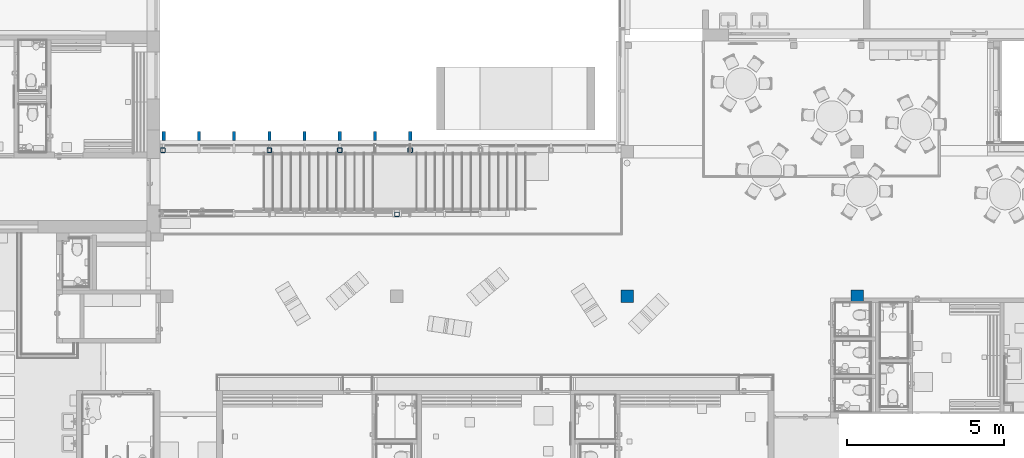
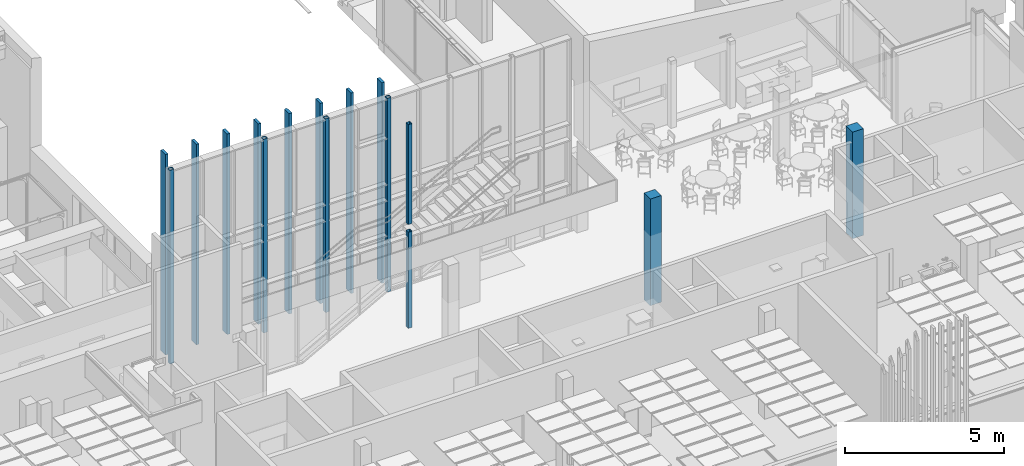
# One storey, part 15 of 301: 15 columns.
"""IFC2X3 building model written with IfcOpenShell, lengths in millimetres."""

from ifc_helpers import new_model, entity, si_unit, converted_unit, derived_unit, money_unit, direction, frame, origin_with_axes, place, context, subcontext, project, spatial, faceted_brep, material, type_object, element, save


model = new_model("IFC2X3")

# Units and contexts
model_context = context("Model", 3, precision=0.01, world=origin_with_axes(), true_north=direction((0.0, 1.0)))
body_context = subcontext(model_context, "Body", "Model", "MODEL_VIEW")
ifc_project = project(units=[si_unit("LENGTHUNIT", "METRE", prefix="MILLI"), si_unit("AREAUNIT", "SQUARE_METRE"), si_unit("VOLUMEUNIT", "CUBIC_METRE"), converted_unit("PLANEANGLEUNIT", "DEGREE", entity("IfcPlaneAngleMeasure", 0.0174532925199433), si_unit("PLANEANGLEUNIT", "RADIAN"), dimensions=[0, 0, 0, 0, 0, 0, 0]), money_unit("EUR"), converted_unit("TIMEUNIT", "Year", entity("IfcTimeMeasure", 31557600.0), si_unit("TIMEUNIT", "SECOND"), dimensions=[0, 0, 1, 0, 0, 0, 0]), si_unit("MASSUNIT", "GRAM", prefix="KILO"), si_unit("THERMODYNAMICTEMPERATUREUNIT", "DEGREE_CELSIUS"), si_unit("LUMINOUSINTENSITYUNIT", "LUMEN"), si_unit("ENERGYUNIT", "JOULE", prefix="MEGA"), derived_unit("THERMALCONDUCTANCEUNIT", [(si_unit("POWERUNIT", "WATT"), 1), (si_unit("LENGTHUNIT", "METRE"), -1), (si_unit("THERMODYNAMICTEMPERATUREUNIT", "KELVIN"), -1)]), derived_unit("SPECIFICHEATCAPACITYUNIT", [(si_unit("ENERGYUNIT", "JOULE"), 1), (si_unit("MASSUNIT", "GRAM", prefix="KILO"), -1), (si_unit("THERMODYNAMICTEMPERATUREUNIT", "KELVIN"), -1)]), derived_unit("MASSDENSITYUNIT", [(si_unit("MASSUNIT", "GRAM", prefix="KILO"), 1), (si_unit("VOLUMEUNIT", "CUBIC_METRE"), -1)])], contexts=[model_context])

# Site, building, storey
site_placement = place(None, frame((0.0, 0.0, 8650.0), z_axis=(0.0, 0.0, 1.0), x_axis=(1.0, 0.0, 0.0)))
site = spatial("IfcSite", under=ifc_project, at=site_placement, Name="43301:001:0844", CompositionType="ELEMENT")
building_placement = place(site_placement, origin_with_axes())
building = spatial("IfcBuilding", under=site, at=building_placement, Name="Kuressaare Ametikooli tuulikute mehaanikute õppekorpus", CompositionType="ELEMENT")
storey_placement = place(building_placement, origin_with_axes())
storey = spatial("IfcBuildingStorey", under=building, at=storey_placement, Name="1.korrus", CompositionType="ELEMENT", Elevation=0.0)

# Columns
ifc_material_1 = material(Name="Puit - Liimpuit")
column_type_1 = type_object("IfcColumnType", Name="Puit - Liimpuit 400 x 400", PredefinedType="NOTDEFINED")
for number, where, z_axis, x_axis in (
    (1, (125918.0683571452, 23774.0689239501, 0.0), (0.0, 0.0, 1.0), (1.0, 0.0, 0.0)),
    (2, (118567.946571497, 23774.0689239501, 0.0), (0.0, 0.0, 1.0), (1.0, 0.0, 0.0)),
):
    element("IfcColumn", number, at=place(storey_placement, frame(where, z_axis=z_axis, x_axis=x_axis)), inside=storey, type_object=column_type_1, material=ifc_material_1, context=body_context, shape_type="Brep", body=[
        faceted_brep([(-200.0000000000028, -199.9999999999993, 4099.999999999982), (-200.0000000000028, -199.9999999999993, 0.0), (200.0000000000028, -199.9999999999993, 0.0), (200.0000000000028, -199.9999999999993, 4099.999999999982), (-200.0000000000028, 199.9999999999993, 4099.999999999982), (-200.0000000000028, 199.9999999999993, 0.0), (200.0000000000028, 199.9999999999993, 0.0), (200.0000000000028, 199.9999999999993, 4099.999999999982)], [[[0, 1, 2, 3]], [[4, 5, 1, 0]], [[2, 1, 5, 6]], [[3, 2, 6, 7]], [[4, 0, 3, 7]], [[7, 6, 5, 4]]]),
    ])
ifc_material_2 = material(Name="GENEERILINE - KONSTRUKTRIOON")
column_type_2 = type_object("IfcColumnType", Name="GENEERILINE - KONSTRUKTRIOON 300 x 100", PredefinedType="NOTDEFINED")
for number, where, z_axis, x_axis, name in (
    (3, (103767.1026822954, 28888.99707554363, 99.99999999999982), (0.0, 0.0, 1.0), (0.0, -1.0, 0.0), "Varjestus_viltu"),
    (4, (104892.1026822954, 28888.99707554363, 99.99999999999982), (0.0, 0.0, 1.0), (0.0, -1.0, 0.0), "Esif_varjestus_vertik"),
    (5, (106017.1026822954, 28888.99707554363, 99.99999999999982), (0.0, 0.0, 1.0), (0.0, -1.0, 0.0), "Esif_varjestus_vertik"),
    (6, (107142.1026822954, 28888.99707554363, 99.99999999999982), (0.0, 0.0, 1.0), (0.0, -1.0, 0.0), "Esif_varjestus_vertik"),
):
    element("IfcColumn", number, at=place(storey_placement, frame(where, z_axis=z_axis, x_axis=x_axis)), inside=storey, type_object=column_type_2, material=ifc_material_2, Name=name, context=body_context, shape_type="Brep", body=[
        faceted_brep([(150.0000000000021, 49.99999999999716, 7706.826694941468), (150.0000000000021, 49.99999999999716, 0.0), (-149.9999999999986, 49.99999999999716, 0.0), (-149.9999999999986, 49.99999999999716, 7706.826694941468), (150.0000000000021, -49.99999999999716, 7706.826694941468), (150.0000000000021, -49.99999999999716, 0.0), (-149.9999999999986, -49.99999999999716, 0.0), (-149.9999999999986, -49.99999999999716, 7706.826694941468)], [[[0, 1, 2, 3]], [[4, 5, 1, 0]], [[2, 1, 5, 6]], [[3, 2, 6, 7]], [[4, 0, 3, 7]], [[7, 6, 5, 4]]]),
    ])
for number, where, z_axis, x_axis in (
    (7, (108267.1026822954, 28888.99707554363, 100.0000000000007), (0.0, 0.0, 1.0), (0.0, -1.0, 0.0)),
    (8, (109392.1026822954, 28888.99707554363, 100.0000000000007), (0.0, 0.0, 1.0), (0.0, -1.0, 0.0)),
    (9, (110517.1026822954, 28888.99707554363, 100.0000000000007), (0.0, 0.0, 1.0), (0.0, -1.0, 0.0)),
    (10, (111642.1026822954, 28888.99707554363, 100.0000000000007), (0.0, 0.0, 1.0), (0.0, -1.0, 0.0)),
):
    element("IfcColumn", number, at=place(storey_placement, frame(where, z_axis=z_axis, x_axis=x_axis)), inside=storey, type_object=column_type_2, material=ifc_material_2, Name="Esif_varjestus_vertik", context=body_context, shape_type="Brep", body=[
        faceted_brep([(150.0000000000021, 49.99999999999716, 7706.826694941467), (150.0000000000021, 49.99999999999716, 0.0), (-149.9999999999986, 49.99999999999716, 0.0), (-149.9999999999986, 49.99999999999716, 7706.826694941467), (150.0000000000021, -49.99999999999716, 7706.826694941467), (150.0000000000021, -49.99999999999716, 0.0), (-149.9999999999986, -49.99999999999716, 0.0), (-149.9999999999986, -49.99999999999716, 7706.826694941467)], [[[0, 1, 2, 3]], [[4, 5, 1, 0]], [[2, 1, 5, 6]], [[3, 2, 6, 7]], [[4, 0, 3, 7]], [[7, 6, 5, 4]]]),
    ])
ifc_material_3 = material(Name="STEEL/S355")
column_type_3 = type_object("IfcColumnType", Name="RHS150*8 150 x 150", PredefinedType="NOTDEFINED")
column_1_placement = place(storey_placement, frame((111642.105861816, 28434.56806945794, 0.0), z_axis=(0.0, 0.0, 1.0), x_axis=(-1.0, 0.0, 0.0)))
element("IfcColumn", 11, at=column_1_placement, inside=storey, type_object=column_type_3, material=ifc_material_3, Name="POST", context=body_context, shape_type="Brep", body=[
    faceted_brep([(-64.99999999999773, 72.32050807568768, 7449.999999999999), (-55.00000000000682, 74.99999999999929, 7449.999999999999), (-55.00000000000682, 74.99999999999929, 0.0), (-64.99999999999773, 72.32050807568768, 0.0), (64.99999999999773, 72.32050807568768, 7449.999999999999), (55.00000000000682, 74.99999999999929, 7449.999999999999), (-72.32050807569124, 65.00000000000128, 7449.999999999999), (-75.00000000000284, 54.99999999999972, 7449.999999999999), (-75.00000000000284, -54.99999999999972, 7449.999999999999), (-72.32050807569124, -65.00000000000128, 7449.999999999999), (-64.99999999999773, -72.32050807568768, 7449.999999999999), (-55.00000000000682, -74.99999999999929, 7449.999999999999), (55.00000000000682, -74.99999999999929, 7449.999999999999), (64.99999999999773, -72.32050807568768, 7449.999999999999), (72.32050807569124, -65.00000000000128, 7449.999999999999), (75.00000000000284, -54.99999999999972, 7449.999999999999), (75.00000000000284, 54.99999999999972, 7449.999999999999), (72.32050807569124, 65.00000000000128, 7449.999999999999), (-55.00000000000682, 67.00000000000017, 7449.999999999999), (55.00000000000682, 67.00000000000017, 7449.999999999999), (63.48528137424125, 63.4852813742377, 7449.999999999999), (66.99999999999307, 54.99999999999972, 7449.999999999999), (66.99999999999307, -54.99999999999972, 7449.999999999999), (63.48528137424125, -63.4852813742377, 7449.999999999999), (55.00000000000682, -67.00000000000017, 7449.999999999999), (-55.00000000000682, -67.00000000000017, 7449.999999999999), (-63.48528137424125, -63.4852813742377, 7449.999999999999), (-66.99999999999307, -54.99999999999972, 7449.999999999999), (-66.99999999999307, 54.99999999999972, 7449.999999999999), (-63.48528137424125, 63.4852813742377, 7449.999999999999), (55.00000000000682, 74.99999999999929, 0.0), (-72.32050807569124, 65.00000000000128, 0.0), (64.99999999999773, 72.32050807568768, 0.0), (72.32050807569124, 65.00000000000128, 0.0), (75.00000000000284, 54.99999999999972, 0.0), (75.00000000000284, -54.99999999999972, 0.0), (72.32050807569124, -65.00000000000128, 0.0), (64.99999999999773, -72.32050807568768, 0.0), (55.00000000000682, -74.99999999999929, 0.0), (-55.00000000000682, -74.99999999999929, 0.0), (-64.99999999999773, -72.32050807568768, 0.0), (-72.32050807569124, -65.00000000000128, 0.0), (-75.00000000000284, -54.99999999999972, 0.0), (-75.00000000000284, 54.99999999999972, 0.0), (66.99999999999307, -54.99999999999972, 0.0), (66.99999999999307, 54.99999999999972, 0.0), (63.48528137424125, 63.4852813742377, 0.0), (55.00000000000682, 67.00000000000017, 0.0), (-55.00000000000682, 67.00000000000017, 0.0), (-63.48528137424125, 63.4852813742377, 0.0), (-66.99999999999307, 54.99999999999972, 0.0), (-66.99999999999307, -54.99999999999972, 0.0), (-63.48528137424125, -63.4852813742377, 0.0), (-55.00000000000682, -67.00000000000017, 0.0), (55.00000000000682, -67.00000000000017, 0.0), (63.48528137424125, -63.4852813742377, 0.0)], [[[0, 1, 2, 3]], [[4, 5, 1, 0, 6, 7, 8, 9, 10, 11, 12, 13, 14, 15, 16, 17], [18, 19, 20, 21, 22, 23, 24, 25, 26, 27, 28, 29]], [[1, 5, 30, 2]], [[31, 3, 2, 30, 32, 33, 34, 35, 36, 37, 38, 39, 40, 41, 42, 43], [44, 45, 46, 47, 48, 49, 50, 51, 52, 53, 54, 55]], [[6, 0, 3, 31]], [[5, 4, 32, 30]], [[7, 6, 31, 43]], [[8, 7, 43, 42]], [[9, 8, 42, 41]], [[10, 9, 41, 40]], [[11, 10, 40, 39]], [[12, 11, 39, 38]], [[13, 12, 38, 37]], [[14, 13, 37, 36]], [[15, 14, 36, 35]], [[16, 15, 35, 34]], [[17, 16, 34, 33]], [[4, 17, 33, 32]], [[19, 18, 48, 47]], [[20, 19, 47, 46]], [[21, 20, 46, 45]], [[22, 21, 45, 44]], [[23, 22, 44, 55]], [[24, 23, 55, 54]], [[25, 24, 54, 53]], [[26, 25, 53, 52]], [[27, 26, 52, 51]], [[28, 27, 51, 50]], [[29, 28, 50, 49]], [[18, 29, 49, 48]]]),
])
column_2_placement = place(storey_placement, frame((111217.9822670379, 26384.5769530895, 0.0), z_axis=(0.0, 0.0, 1.0), x_axis=(-1.0, 0.0, 0.0)))
element("IfcColumn", 12, at=column_2_placement, inside=storey, type_object=column_type_3, material=ifc_material_3, Name="POST", context=body_context, shape_type="Brep", body=[
    faceted_brep([(-66.99999999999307, 54.99999999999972, 0.0), (-66.99999999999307, 54.99999999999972, 3689.999999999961), (-66.99999999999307, -54.99999999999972, 3689.999999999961), (-66.99999999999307, -54.99999999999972, 0.0), (-63.48528137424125, 63.4852813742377, 0.0), (-63.48528137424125, 63.4852813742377, 3689.999999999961), (-72.32050807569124, 65.00000000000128, 3689.999999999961), (-75.00000000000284, 54.99999999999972, 3689.999999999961), (-75.00000000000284, -54.99999999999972, 3689.999999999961), (-72.32050807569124, -65.00000000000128, 3689.999999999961), (-64.99999999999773, -72.32050807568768, 3689.999999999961), (-55.00000000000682, -74.99999999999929, 3689.999999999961), (55.00000000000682, -74.99999999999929, 3689.999999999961), (64.99999999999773, -72.32050807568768, 3689.999999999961), (72.32050807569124, -65.00000000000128, 3689.999999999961), (75.00000000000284, -54.99999999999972, 3689.999999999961), (75.00000000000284, 54.99999999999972, 3689.999999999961), (72.32050807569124, 65.00000000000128, 3689.999999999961), (64.99999999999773, 72.32050807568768, 3689.999999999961), (55.00000000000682, 74.99999999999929, 3689.999999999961), (-55.00000000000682, 74.99999999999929, 3689.999999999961), (-64.99999999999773, 72.32050807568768, 3689.999999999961), (-55.00000000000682, -67.00000000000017, 3689.999999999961), (-63.48528137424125, -63.4852813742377, 3689.999999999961), (-55.00000000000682, 67.00000000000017, 3689.999999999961), (55.00000000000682, 67.00000000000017, 3689.999999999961), (63.48528137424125, 63.4852813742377, 3689.999999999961), (66.99999999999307, 54.99999999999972, 3689.999999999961), (66.99999999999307, -54.99999999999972, 3689.999999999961), (63.48528137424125, -63.4852813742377, 3689.999999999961), (55.00000000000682, -67.00000000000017, 3689.999999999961), (-63.48528137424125, -63.4852813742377, 0.0), (-72.32050807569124, 65.00000000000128, 0.0), (-64.99999999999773, 72.32050807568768, 0.0), (-55.00000000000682, 74.99999999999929, 0.0), (55.00000000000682, 74.99999999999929, 0.0), (64.99999999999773, 72.32050807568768, 0.0), (72.32050807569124, 65.00000000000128, 0.0), (75.00000000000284, 54.99999999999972, 0.0), (75.00000000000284, -54.99999999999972, 0.0), (72.32050807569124, -65.00000000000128, 0.0), (64.99999999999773, -72.32050807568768, 0.0), (55.00000000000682, -74.99999999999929, 0.0), (-55.00000000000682, -74.99999999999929, 0.0), (-64.99999999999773, -72.32050807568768, 0.0), (-72.32050807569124, -65.00000000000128, 0.0), (-75.00000000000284, -54.99999999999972, 0.0), (-75.00000000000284, 54.99999999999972, 0.0), (66.99999999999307, -54.99999999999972, 0.0), (66.99999999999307, 54.99999999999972, 0.0), (63.48528137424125, 63.4852813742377, 0.0), (55.00000000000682, 67.00000000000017, 0.0), (-55.00000000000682, 67.00000000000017, 0.0), (-55.00000000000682, -67.00000000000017, 0.0), (55.00000000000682, -67.00000000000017, 0.0), (63.48528137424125, -63.4852813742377, 0.0)], [[[0, 1, 2, 3]], [[4, 5, 1, 0]], [[6, 7, 8, 9, 10, 11, 12, 13, 14, 15, 16, 17, 18, 19, 20, 21], [22, 23, 2, 1, 5, 24, 25, 26, 27, 28, 29, 30]], [[3, 2, 23, 31]], [[32, 33, 34, 35, 36, 37, 38, 39, 40, 41, 42, 43, 44, 45, 46, 47], [48, 49, 50, 51, 52, 4, 0, 3, 31, 53, 54, 55]], [[52, 24, 5, 4]], [[47, 7, 6, 32]], [[46, 8, 7, 47]], [[45, 9, 8, 46]], [[44, 10, 9, 45]], [[43, 11, 10, 44]], [[42, 12, 11, 43]], [[41, 13, 12, 42]], [[40, 14, 13, 41]], [[39, 15, 14, 40]], [[38, 16, 15, 39]], [[37, 17, 16, 38]], [[36, 18, 17, 37]], [[35, 19, 18, 36]], [[34, 20, 19, 35]], [[33, 21, 20, 34]], [[32, 6, 21, 33]], [[31, 23, 22, 53]], [[51, 25, 24, 52]], [[50, 26, 25, 51]], [[49, 27, 26, 50]], [[48, 28, 27, 49]], [[55, 29, 28, 48]], [[54, 30, 29, 55]], [[53, 22, 30, 54]]]),
    faceted_brep([(-63.48528137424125, -63.4852813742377, 7830.0), (-63.48528137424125, -63.4852813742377, 3989.999999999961), (-66.99999999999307, -54.99999999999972, 3989.999999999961), (-66.99999999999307, -54.99999999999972, 7830.0), (-55.00000000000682, -67.00000000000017, 7830.0), (-55.00000000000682, -67.00000000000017, 3989.999999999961), (-64.99999999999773, -72.32050807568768, 3989.999999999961), (-72.32050807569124, -65.00000000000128, 3989.999999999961), (-75.00000000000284, -54.99999999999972, 3989.999999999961), (-75.00000000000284, 54.99999999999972, 3989.999999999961), (-72.32050807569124, 65.00000000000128, 3989.999999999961), (-64.99999999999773, 72.32050807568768, 3989.999999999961), (-55.00000000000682, 74.99999999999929, 3989.999999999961), (55.00000000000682, 74.99999999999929, 3989.999999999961), (64.99999999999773, 72.32050807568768, 3989.999999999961), (72.32050807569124, 65.00000000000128, 3989.999999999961), (75.00000000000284, 54.99999999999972, 3989.999999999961), (75.00000000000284, -54.99999999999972, 3989.999999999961), (72.32050807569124, -65.00000000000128, 3989.999999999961), (64.99999999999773, -72.32050807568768, 3989.999999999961), (55.00000000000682, -74.99999999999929, 3989.999999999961), (-55.00000000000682, -74.99999999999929, 3989.999999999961), (-63.48528137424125, 63.4852813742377, 3989.999999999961), (-66.99999999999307, 54.99999999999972, 3989.999999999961), (55.00000000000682, -67.00000000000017, 3989.999999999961), (63.48528137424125, -63.4852813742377, 3989.999999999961), (66.99999999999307, -54.99999999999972, 3989.999999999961), (66.99999999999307, 54.99999999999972, 3989.999999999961), (63.48528137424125, 63.4852813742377, 3989.999999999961), (55.00000000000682, 67.00000000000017, 3989.999999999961), (-55.00000000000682, 67.00000000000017, 3989.999999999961), (-66.99999999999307, 54.99999999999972, 7830.0), (64.99999999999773, 72.32050807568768, 7830.0), (55.00000000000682, 74.99999999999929, 7830.0), (-55.00000000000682, 74.99999999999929, 7830.0), (-64.99999999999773, 72.32050807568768, 7830.0), (-72.32050807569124, 65.00000000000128, 7830.0), (-75.00000000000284, 54.99999999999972, 7830.0), (-75.00000000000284, -54.99999999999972, 7830.0), (-72.32050807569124, -65.00000000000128, 7830.0), (-64.99999999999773, -72.32050807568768, 7830.0), (-55.00000000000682, -74.99999999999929, 7830.0), (55.00000000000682, -74.99999999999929, 7830.0), (64.99999999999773, -72.32050807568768, 7830.0), (72.32050807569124, -65.00000000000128, 7830.0), (75.00000000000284, -54.99999999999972, 7830.0), (75.00000000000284, 54.99999999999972, 7830.0), (72.32050807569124, 65.00000000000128, 7830.0), (-55.00000000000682, 67.00000000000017, 7830.0), (55.00000000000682, 67.00000000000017, 7830.0), (63.48528137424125, 63.4852813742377, 7830.0), (66.99999999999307, 54.99999999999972, 7830.0), (66.99999999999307, -54.99999999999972, 7830.0), (63.48528137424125, -63.4852813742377, 7830.0), (55.00000000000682, -67.00000000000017, 7830.0), (-63.48528137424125, 63.4852813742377, 7830.0)], [[[0, 1, 2, 3]], [[4, 5, 1, 0]], [[6, 7, 8, 9, 10, 11, 12, 13, 14, 15, 16, 17, 18, 19, 20, 21], [22, 23, 2, 1, 5, 24, 25, 26, 27, 28, 29, 30]], [[3, 2, 23, 31]], [[32, 33, 34, 35, 36, 37, 38, 39, 40, 41, 42, 43, 44, 45, 46, 47], [48, 49, 50, 51, 52, 53, 54, 4, 0, 3, 31, 55]], [[54, 24, 5, 4]], [[39, 7, 6, 40]], [[38, 8, 7, 39]], [[37, 9, 8, 38]], [[36, 10, 9, 37]], [[35, 11, 10, 36]], [[34, 12, 11, 35]], [[33, 13, 12, 34]], [[32, 14, 13, 33]], [[47, 15, 14, 32]], [[46, 16, 15, 47]], [[45, 17, 16, 46]], [[44, 18, 17, 45]], [[43, 19, 18, 44]], [[42, 20, 19, 43]], [[41, 21, 20, 42]], [[40, 6, 21, 41]], [[31, 23, 22, 55]], [[53, 25, 24, 54]], [[52, 26, 25, 53]], [[51, 27, 26, 52]], [[50, 28, 27, 51]], [[49, 29, 28, 50]], [[48, 30, 29, 49]], [[55, 22, 30, 48]]]),
])
column_3_placement = place(storey_placement, frame((103742.097387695, 28434.56806945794, 0.0), z_axis=(0.0, 0.0, 1.0), x_axis=(-1.0, 0.0, 0.0)))
element("IfcColumn", 13, at=column_3_placement, inside=storey, type_object=column_type_3, material=ifc_material_3, Name="POST", context=body_context, shape_type="Brep", body=[
    faceted_brep([(55.00000000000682, 74.99999999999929, 7449.999999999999), (-25.85475408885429, 74.99999999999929, 7449.999999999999), (-25.85475408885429, 67.00000000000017, 7449.999999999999), (55.00000000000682, 67.00000000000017, 7449.999999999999), (63.48528137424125, 63.4852813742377, 7449.999999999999), (66.99999999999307, 54.99999999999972, 7449.999999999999), (66.99999999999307, -54.99999999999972, 7449.999999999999), (63.48528137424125, -63.4852813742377, 7449.999999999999), (55.00000000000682, -67.00000000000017, 7449.999999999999), (-55.00000000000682, -67.00000000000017, 7449.999999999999), (-63.48528137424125, -63.4852813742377, 7449.999999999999), (-66.99999999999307, -54.99999999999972, 7449.999999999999), (-66.99999999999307, 50.49726944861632, 7449.999999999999), (-75.00000000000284, 50.49726944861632, 7449.999999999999), (-75.00000000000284, -54.99999999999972, 7449.999999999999), (-72.32050807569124, -65.00000000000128, 7449.999999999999), (-64.99999999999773, -72.32050807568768, 7449.999999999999), (-55.00000000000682, -74.99999999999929, 7449.999999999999), (55.00000000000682, -74.99999999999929, 7449.999999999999), (64.99999999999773, -72.32050807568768, 7449.999999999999), (72.32050807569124, -65.00000000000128, 7449.999999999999), (75.00000000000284, -54.99999999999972, 7449.999999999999), (75.00000000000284, 54.99999999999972, 7449.999999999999), (72.32050807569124, 65.00000000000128, 7449.999999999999), (64.99999999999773, 72.32050807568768, 7449.999999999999), (-55.00000000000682, 74.99999999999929, 7432.264547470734), (-25.85475408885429, 74.99999999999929, 7432.264547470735), (55.00000000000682, 74.99999999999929, 0.0), (-55.00000000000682, 74.99999999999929, 0.0), (-25.85475408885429, 67.00000000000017, 7430.120954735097), (-55.00000000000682, 67.00000000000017, 7430.120954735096), (-55.00000000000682, 67.00000000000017, 0.0), (55.00000000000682, 67.00000000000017, 0.0), (63.48528137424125, 63.4852813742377, 0.0), (66.99999999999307, 54.99999999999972, 0.0), (66.99999999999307, -54.99999999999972, 0.0), (63.48528137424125, -63.4852813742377, 0.0), (55.00000000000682, -67.00000000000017, 0.0), (-55.00000000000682, -67.00000000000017, 0.0), (-63.48528137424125, -63.4852813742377, 0.0), (-66.99999999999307, -54.99999999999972, 0.0), (-66.99999999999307, 54.99999999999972, 7426.905565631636), (-66.99999999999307, 50.49726944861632, 7425.699063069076), (-66.99999999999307, 54.99999999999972, 0.0), (-75.00000000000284, 50.49726944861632, 7425.699063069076), (-75.00000000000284, 54.99999999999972, 7426.905565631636), (-75.00000000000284, 54.99999999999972, 0.0), (-75.00000000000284, -54.99999999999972, 0.0), (-72.32050807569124, -65.00000000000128, 0.0), (-64.99999999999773, -72.32050807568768, 0.0), (-55.00000000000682, -74.99999999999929, 0.0), (55.00000000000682, -74.99999999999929, 0.0), (64.99999999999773, -72.32050807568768, 0.0), (72.32050807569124, -65.00000000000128, 0.0), (75.00000000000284, -54.99999999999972, 0.0), (75.00000000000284, 54.99999999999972, 0.0), (72.32050807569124, 65.00000000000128, 0.0), (64.99999999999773, 72.32050807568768, 0.0), (-72.32050807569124, 65.00000000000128, 7429.585056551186), (-63.48528137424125, 63.4852813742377, 7429.179189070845), (-64.99999999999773, 72.32050807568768, 7431.546580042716), (-72.32050807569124, 65.00000000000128, 0.0), (-64.99999999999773, 72.32050807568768, 0.0), (-63.48528137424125, 63.4852813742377, 0.0)], [[[0, 1, 2, 3, 4, 5, 6, 7, 8, 9, 10, 11, 12, 13, 14, 15, 16, 17, 18, 19, 20, 21, 22, 23, 24]], [[25, 26, 1, 0, 27, 28]], [[26, 29, 2, 1]], [[2, 29, 30, 31, 32, 3]], [[32, 33, 4, 3]], [[33, 34, 5, 4]], [[34, 35, 6, 5]], [[35, 36, 7, 6]], [[36, 37, 8, 7]], [[37, 38, 9, 8]], [[38, 39, 10, 9]], [[39, 40, 11, 10]], [[41, 42, 12, 11, 40, 43]], [[42, 44, 13, 12]], [[13, 44, 45, 46, 47, 14]], [[47, 48, 15, 14]], [[48, 49, 16, 15]], [[49, 50, 17, 16]], [[50, 51, 18, 17]], [[51, 52, 19, 18]], [[52, 53, 20, 19]], [[53, 54, 21, 20]], [[54, 55, 22, 21]], [[55, 56, 23, 22]], [[56, 57, 24, 23]], [[57, 27, 0, 24]], [[58, 45, 44, 42, 41, 59, 30, 29, 26, 25, 60]], [[47, 46, 61, 62, 28, 27, 57, 56, 55, 54, 53, 52, 51, 50, 49, 48], [37, 36, 35, 34, 33, 32, 31, 63, 43, 40, 39, 38]], [[62, 60, 25, 28]], [[31, 30, 59, 63]], [[63, 59, 41, 43]], [[46, 45, 58, 61]], [[61, 58, 60, 62]]]),
])
column_4_placement = place(storey_placement, frame((109392.0973876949, 28434.56806945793, 0.0), z_axis=(0.0, 0.0, 1.0), x_axis=(-1.0, 0.0, 0.0)))
element("IfcColumn", 14, at=column_4_placement, inside=storey, type_object=column_type_3, material=ifc_material_3, Name="POST", context=body_context, shape_type="Brep", body=[
    faceted_brep([(-64.99999999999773, 72.32050807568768, 7449.999999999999), (-55.00000000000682, 74.99999999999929, 7449.999999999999), (-55.00000000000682, 74.99999999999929, 0.0), (-64.99999999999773, 72.32050807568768, 0.0), (64.99999999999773, 72.32050807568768, 7449.999999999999), (55.00000000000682, 74.99999999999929, 7449.999999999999), (-72.32050807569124, 65.00000000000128, 7449.999999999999), (-75.00000000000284, 54.99999999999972, 7449.999999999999), (-75.00000000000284, -54.99999999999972, 7449.999999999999), (-72.32050807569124, -65.00000000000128, 7449.999999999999), (-64.99999999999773, -72.32050807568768, 7449.999999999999), (-55.00000000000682, -74.99999999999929, 7449.999999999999), (55.00000000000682, -74.99999999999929, 7449.999999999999), (64.99999999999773, -72.32050807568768, 7449.999999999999), (72.32050807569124, -65.00000000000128, 7449.999999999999), (75.00000000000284, -54.99999999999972, 7449.999999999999), (75.00000000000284, 54.99999999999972, 7449.999999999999), (72.32050807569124, 65.00000000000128, 7449.999999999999), (-55.00000000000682, 67.00000000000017, 7449.999999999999), (55.00000000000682, 67.00000000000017, 7449.999999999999), (63.48528137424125, 63.4852813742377, 7449.999999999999), (66.99999999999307, 54.99999999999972, 7449.999999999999), (66.99999999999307, -54.99999999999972, 7449.999999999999), (63.48528137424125, -63.4852813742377, 7449.999999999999), (55.00000000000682, -67.00000000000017, 7449.999999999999), (-55.00000000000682, -67.00000000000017, 7449.999999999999), (-63.48528137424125, -63.4852813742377, 7449.999999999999), (-66.99999999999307, -54.99999999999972, 7449.999999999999), (-66.99999999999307, 54.99999999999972, 7449.999999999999), (-63.48528137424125, 63.4852813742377, 7449.999999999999), (55.00000000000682, 74.99999999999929, 0.0), (-72.32050807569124, 65.00000000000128, 0.0), (64.99999999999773, 72.32050807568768, 0.0), (72.32050807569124, 65.00000000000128, 0.0), (75.00000000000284, 54.99999999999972, 0.0), (75.00000000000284, -54.99999999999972, 0.0), (72.32050807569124, -65.00000000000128, 0.0), (64.99999999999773, -72.32050807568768, 0.0), (55.00000000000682, -74.99999999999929, 0.0), (-55.00000000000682, -74.99999999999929, 0.0), (-64.99999999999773, -72.32050807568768, 0.0), (-72.32050807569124, -65.00000000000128, 0.0), (-75.00000000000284, -54.99999999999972, 0.0), (-75.00000000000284, 54.99999999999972, 0.0), (66.99999999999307, -54.99999999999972, 0.0), (66.99999999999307, 54.99999999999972, 0.0), (63.48528137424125, 63.4852813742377, 0.0), (55.00000000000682, 67.00000000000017, 0.0), (-55.00000000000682, 67.00000000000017, 0.0), (-63.48528137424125, 63.4852813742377, 0.0), (-66.99999999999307, 54.99999999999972, 0.0), (-66.99999999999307, -54.99999999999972, 0.0), (-63.48528137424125, -63.4852813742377, 0.0), (-55.00000000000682, -67.00000000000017, 0.0), (55.00000000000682, -67.00000000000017, 0.0), (63.48528137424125, -63.4852813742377, 0.0)], [[[0, 1, 2, 3]], [[4, 5, 1, 0, 6, 7, 8, 9, 10, 11, 12, 13, 14, 15, 16, 17], [18, 19, 20, 21, 22, 23, 24, 25, 26, 27, 28, 29]], [[1, 5, 30, 2]], [[31, 3, 2, 30, 32, 33, 34, 35, 36, 37, 38, 39, 40, 41, 42, 43], [44, 45, 46, 47, 48, 49, 50, 51, 52, 53, 54, 55]], [[6, 0, 3, 31]], [[5, 4, 32, 30]], [[7, 6, 31, 43]], [[8, 7, 43, 42]], [[9, 8, 42, 41]], [[10, 9, 41, 40]], [[11, 10, 40, 39]], [[12, 11, 39, 38]], [[13, 12, 38, 37]], [[14, 13, 37, 36]], [[15, 14, 36, 35]], [[16, 15, 35, 34]], [[17, 16, 34, 33]], [[4, 17, 33, 32]], [[19, 18, 48, 47]], [[20, 19, 47, 46]], [[21, 20, 46, 45]], [[22, 21, 45, 44]], [[23, 22, 44, 55]], [[24, 23, 55, 54]], [[25, 24, 54, 53]], [[26, 25, 53, 52]], [[27, 26, 52, 51]], [[28, 27, 51, 50]], [[29, 28, 50, 49]], [[18, 29, 49, 48]]]),
])
column_5_placement = place(storey_placement, frame((107142.0973876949, 28434.56806945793, 0.0), z_axis=(0.0, 0.0, 1.0), x_axis=(-1.0, 0.0, 0.0)))
element("IfcColumn", 15, at=column_5_placement, inside=storey, type_object=column_type_3, material=ifc_material_3, Name="POST", context=body_context, shape_type="Brep", body=[
    faceted_brep([(-64.99999999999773, 72.32050807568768, 7449.999999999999), (-55.00000000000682, 74.99999999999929, 7449.999999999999), (-55.00000000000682, 74.99999999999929, 0.0), (-64.99999999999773, 72.32050807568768, 0.0), (64.99999999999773, 72.32050807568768, 7449.999999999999), (55.00000000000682, 74.99999999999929, 7449.999999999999), (-72.32050807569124, 65.00000000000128, 7449.999999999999), (-75.00000000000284, 54.99999999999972, 7449.999999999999), (-75.00000000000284, -54.99999999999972, 7449.999999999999), (-72.32050807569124, -65.00000000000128, 7449.999999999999), (-64.99999999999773, -72.32050807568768, 7449.999999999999), (-55.00000000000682, -74.99999999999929, 7449.999999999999), (55.00000000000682, -74.99999999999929, 7449.999999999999), (64.99999999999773, -72.32050807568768, 7449.999999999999), (72.32050807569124, -65.00000000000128, 7449.999999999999), (75.00000000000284, -54.99999999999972, 7449.999999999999), (75.00000000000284, 54.99999999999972, 7449.999999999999), (72.32050807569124, 65.00000000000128, 7449.999999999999), (-55.00000000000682, 67.00000000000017, 7449.999999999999), (55.00000000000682, 67.00000000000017, 7449.999999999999), (63.48528137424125, 63.4852813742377, 7449.999999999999), (66.99999999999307, 54.99999999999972, 7449.999999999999), (66.99999999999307, -54.99999999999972, 7449.999999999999), (63.48528137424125, -63.4852813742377, 7449.999999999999), (55.00000000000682, -67.00000000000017, 7449.999999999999), (-55.00000000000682, -67.00000000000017, 7449.999999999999), (-63.48528137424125, -63.4852813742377, 7449.999999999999), (-66.99999999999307, -54.99999999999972, 7449.999999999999), (-66.99999999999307, 54.99999999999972, 7449.999999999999), (-63.48528137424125, 63.4852813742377, 7449.999999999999), (55.00000000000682, 74.99999999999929, 0.0), (-72.32050807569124, 65.00000000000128, 0.0), (64.99999999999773, 72.32050807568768, 0.0), (72.32050807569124, 65.00000000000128, 0.0), (75.00000000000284, 54.99999999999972, 0.0), (75.00000000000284, -54.99999999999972, 0.0), (72.32050807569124, -65.00000000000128, 0.0), (64.99999999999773, -72.32050807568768, 0.0), (55.00000000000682, -74.99999999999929, 0.0), (-55.00000000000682, -74.99999999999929, 0.0), (-64.99999999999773, -72.32050807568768, 0.0), (-72.32050807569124, -65.00000000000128, 0.0), (-75.00000000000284, -54.99999999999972, 0.0), (-75.00000000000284, 54.99999999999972, 0.0), (66.99999999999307, -54.99999999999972, 0.0), (66.99999999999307, 54.99999999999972, 0.0), (63.48528137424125, 63.4852813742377, 0.0), (55.00000000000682, 67.00000000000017, 0.0), (-55.00000000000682, 67.00000000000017, 0.0), (-63.48528137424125, 63.4852813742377, 0.0), (-66.99999999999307, 54.99999999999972, 0.0), (-66.99999999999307, -54.99999999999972, 0.0), (-63.48528137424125, -63.4852813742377, 0.0), (-55.00000000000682, -67.00000000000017, 0.0), (55.00000000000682, -67.00000000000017, 0.0), (63.48528137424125, -63.4852813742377, 0.0)], [[[0, 1, 2, 3]], [[4, 5, 1, 0, 6, 7, 8, 9, 10, 11, 12, 13, 14, 15, 16, 17], [18, 19, 20, 21, 22, 23, 24, 25, 26, 27, 28, 29]], [[1, 5, 30, 2]], [[31, 3, 2, 30, 32, 33, 34, 35, 36, 37, 38, 39, 40, 41, 42, 43], [44, 45, 46, 47, 48, 49, 50, 51, 52, 53, 54, 55]], [[6, 0, 3, 31]], [[5, 4, 32, 30]], [[7, 6, 31, 43]], [[8, 7, 43, 42]], [[9, 8, 42, 41]], [[10, 9, 41, 40]], [[11, 10, 40, 39]], [[12, 11, 39, 38]], [[13, 12, 38, 37]], [[14, 13, 37, 36]], [[15, 14, 36, 35]], [[16, 15, 35, 34]], [[17, 16, 34, 33]], [[4, 17, 33, 32]], [[19, 18, 48, 47]], [[20, 19, 47, 46]], [[21, 20, 46, 45]], [[22, 21, 45, 44]], [[23, 22, 44, 55]], [[24, 23, 55, 54]], [[25, 24, 54, 53]], [[26, 25, 53, 52]], [[27, 26, 52, 51]], [[28, 27, 51, 50]], [[29, 28, 50, 49]], [[18, 29, 49, 48]]]),
])

save(model, "model.ifc")
